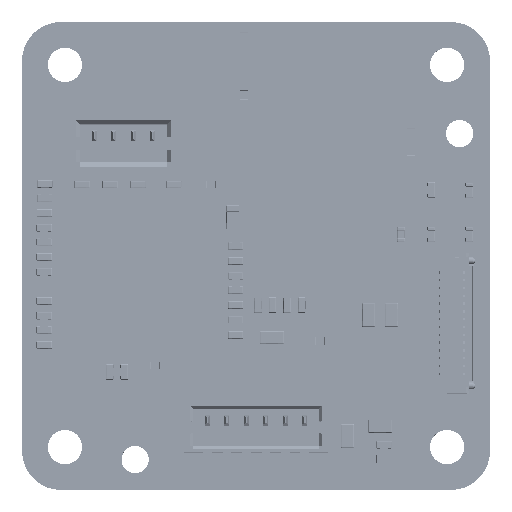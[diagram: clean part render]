
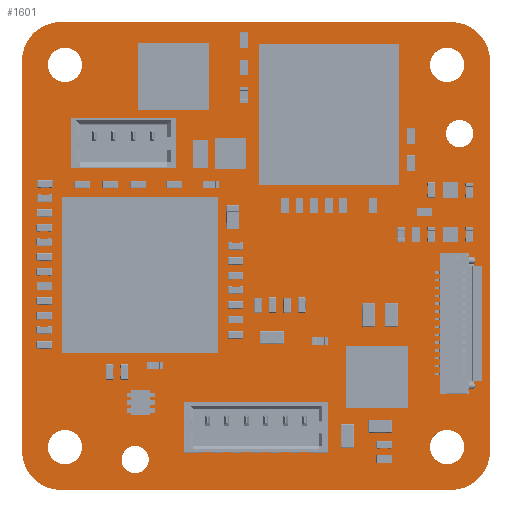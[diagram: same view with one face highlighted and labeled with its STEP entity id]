
A CAD part, top view. The second image highlights one B-rep face of the part: STEP entity #1601.
In plain terms, the highlighted planar face has unit normal (0, 0, 1).
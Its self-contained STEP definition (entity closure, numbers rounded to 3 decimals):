
#760 = VERTEX_POINT('',#761);
#761 = CARTESIAN_POINT('',(0.,2.5,1.002));
#767 = EDGE_CURVE('',#760,#768,#770,.T.);
#768 = VERTEX_POINT('',#769);
#769 = CARTESIAN_POINT('',(-0.006,27.5,1.002));
#770 = LINE('',#771,#772);
#771 = CARTESIAN_POINT('',(0.,2.5,1.002));
#772 = VECTOR('',#773,1.);
#773 = DIRECTION('',(0.,1.,0.));
#798 = EDGE_CURVE('',#768,#799,#801,.T.);
#799 = VERTEX_POINT('',#800);
#800 = CARTESIAN_POINT('',(2.5,30.,1.002));
#801 = CIRCLE('',#802,2.496);
#802 = AXIS2_PLACEMENT_3D('',#803,#804,#805);
#803 = CARTESIAN_POINT('',(2.49,27.504,1.002));
#804 = DIRECTION('',(0.,0.,-1.));
#805 = DIRECTION('',(-1.,-0.002,0.));
#831 = EDGE_CURVE('',#799,#832,#834,.T.);
#832 = VERTEX_POINT('',#833);
#833 = CARTESIAN_POINT('',(27.5,30.,1.002));
#834 = LINE('',#835,#836);
#835 = CARTESIAN_POINT('',(2.5,30.,1.002));
#836 = VECTOR('',#837,1.);
#837 = DIRECTION('',(1.,0.,0.));
#862 = EDGE_CURVE('',#832,#863,#865,.T.);
#863 = VERTEX_POINT('',#864);
#864 = CARTESIAN_POINT('',(30.,27.5,1.002));
#865 = CIRCLE('',#866,2.499);
#866 = AXIS2_PLACEMENT_3D('',#867,#868,#869);
#867 = CARTESIAN_POINT('',(27.501,27.501,1.002));
#868 = DIRECTION('',(0.,0.,-1.));
#869 = DIRECTION('',(0.,1.,0.));
#895 = EDGE_CURVE('',#863,#896,#898,.T.);
#896 = VERTEX_POINT('',#897);
#897 = CARTESIAN_POINT('',(30.,2.5,1.002));
#898 = LINE('',#899,#900);
#899 = CARTESIAN_POINT('',(30.,27.5,1.002));
#900 = VECTOR('',#901,1.);
#901 = DIRECTION('',(0.,-1.,0.));
#926 = EDGE_CURVE('',#896,#927,#929,.T.);
#927 = VERTEX_POINT('',#928);
#928 = CARTESIAN_POINT('',(27.5,0.,1.002));
#929 = CIRCLE('',#930,2.499);
#930 = AXIS2_PLACEMENT_3D('',#931,#932,#933);
#931 = CARTESIAN_POINT('',(27.501,2.499,1.002));
#932 = DIRECTION('',(0.,0.,-1.));
#933 = DIRECTION('',(1.,0.,0.));
#959 = EDGE_CURVE('',#927,#960,#962,.T.);
#960 = VERTEX_POINT('',#961);
#961 = CARTESIAN_POINT('',(2.5,0.,1.002));
#962 = LINE('',#963,#964);
#963 = CARTESIAN_POINT('',(27.5,0.,1.002));
#964 = VECTOR('',#965,1.);
#965 = DIRECTION('',(-1.,0.,0.));
#990 = EDGE_CURVE('',#960,#760,#991,.T.);
#991 = CIRCLE('',#992,2.499);
#992 = AXIS2_PLACEMENT_3D('',#993,#994,#995);
#993 = CARTESIAN_POINT('',(2.499,2.499,1.002));
#994 = DIRECTION('',(0.,0.,-1.));
#995 = DIRECTION('',(0.,-1.,0.));
#1016 = VERTEX_POINT('',#1017);
#1017 = CARTESIAN_POINT('',(3.85,2.75,1.002));
#1023 = EDGE_CURVE('',#1016,#1016,#1024,.T.);
#1024 = CIRCLE('',#1025,1.1);
#1025 = AXIS2_PLACEMENT_3D('',#1026,#1027,#1028);
#1026 = CARTESIAN_POINT('',(2.75,2.75,1.002));
#1027 = DIRECTION('',(0.,0.,1.));
#1028 = DIRECTION('',(1.,0.,0.));
#1049 = VERTEX_POINT('',#1050);
#1050 = CARTESIAN_POINT('',(4.875,22.7,1.002));
#1056 = EDGE_CURVE('',#1049,#1049,#1057,.T.);
#1057 = CIRCLE('',#1058,0.25);
#1058 = AXIS2_PLACEMENT_3D('',#1059,#1060,#1061);
#1059 = CARTESIAN_POINT('',(4.625,22.7,1.002));
#1060 = DIRECTION('',(0.,0.,1.));
#1061 = DIRECTION('',(1.,0.,0.));
#1082 = VERTEX_POINT('',#1083);
#1083 = CARTESIAN_POINT('',(8.125,1.95,1.002));
#1089 = EDGE_CURVE('',#1082,#1082,#1090,.T.);
#1090 = CIRCLE('',#1091,0.875);
#1091 = AXIS2_PLACEMENT_3D('',#1092,#1093,#1094);
#1092 = CARTESIAN_POINT('',(7.25,1.95,1.002));
#1093 = DIRECTION('',(0.,0.,1.));
#1094 = DIRECTION('',(1.,0.,0.));
#1115 = VERTEX_POINT('',#1116);
#1116 = CARTESIAN_POINT('',(12.125,4.45,1.002));
#1122 = EDGE_CURVE('',#1115,#1115,#1123,.T.);
#1123 = CIRCLE('',#1124,0.25);
#1124 = AXIS2_PLACEMENT_3D('',#1125,#1126,#1127);
#1125 = CARTESIAN_POINT('',(11.875,4.45,1.002));
#1126 = DIRECTION('',(0.,0.,1.));
#1127 = DIRECTION('',(1.,0.,0.));
#1148 = VERTEX_POINT('',#1149);
#1149 = CARTESIAN_POINT('',(6.125,22.7,1.002));
#1155 = EDGE_CURVE('',#1148,#1148,#1156,.T.);
#1156 = CIRCLE('',#1157,0.25);
#1157 = AXIS2_PLACEMENT_3D('',#1158,#1159,#1160);
#1158 = CARTESIAN_POINT('',(5.875,22.7,1.002));
#1159 = DIRECTION('',(0.,0.,1.));
#1160 = DIRECTION('',(1.,0.,0.));
#1181 = VERTEX_POINT('',#1182);
#1182 = CARTESIAN_POINT('',(3.85,27.25,1.002));
#1188 = EDGE_CURVE('',#1181,#1181,#1189,.T.);
#1189 = CIRCLE('',#1190,1.1);
#1190 = AXIS2_PLACEMENT_3D('',#1191,#1192,#1193);
#1191 = CARTESIAN_POINT('',(2.75,27.25,1.002));
#1192 = DIRECTION('',(0.,0.,1.));
#1193 = DIRECTION('',(1.,0.,0.));
#1214 = VERTEX_POINT('',#1215);
#1215 = CARTESIAN_POINT('',(8.625,22.7,1.002));
#1221 = EDGE_CURVE('',#1214,#1214,#1222,.T.);
#1222 = CIRCLE('',#1223,0.25);
#1223 = AXIS2_PLACEMENT_3D('',#1224,#1225,#1226);
#1224 = CARTESIAN_POINT('',(8.375,22.7,1.002));
#1225 = DIRECTION('',(0.,0.,1.));
#1226 = DIRECTION('',(1.,0.,0.));
#1247 = VERTEX_POINT('',#1248);
#1248 = CARTESIAN_POINT('',(7.375,22.7,1.002));
#1254 = EDGE_CURVE('',#1247,#1247,#1255,.T.);
#1255 = CIRCLE('',#1256,0.25);
#1256 = AXIS2_PLACEMENT_3D('',#1257,#1258,#1259);
#1257 = CARTESIAN_POINT('',(7.125,22.7,1.002));
#1258 = DIRECTION('',(0.,0.,1.));
#1259 = DIRECTION('',(1.,0.,0.));
#1280 = VERTEX_POINT('',#1281);
#1281 = CARTESIAN_POINT('',(14.625,4.45,1.002));
#1287 = EDGE_CURVE('',#1280,#1280,#1288,.T.);
#1288 = CIRCLE('',#1289,0.25);
#1289 = AXIS2_PLACEMENT_3D('',#1290,#1291,#1292);
#1290 = CARTESIAN_POINT('',(14.375,4.45,1.002));
#1291 = DIRECTION('',(0.,0.,1.));
#1292 = DIRECTION('',(1.,0.,0.));
#1313 = VERTEX_POINT('',#1314);
#1314 = CARTESIAN_POINT('',(13.375,4.45,1.002));
#1320 = EDGE_CURVE('',#1313,#1313,#1321,.T.);
#1321 = CIRCLE('',#1322,0.25);
#1322 = AXIS2_PLACEMENT_3D('',#1323,#1324,#1325);
#1323 = CARTESIAN_POINT('',(13.125,4.45,1.002));
#1324 = DIRECTION('',(0.,0.,1.));
#1325 = DIRECTION('',(1.,0.,0.));
#1346 = VERTEX_POINT('',#1347);
#1347 = CARTESIAN_POINT('',(28.35,2.75,1.002));
#1353 = EDGE_CURVE('',#1346,#1346,#1354,.T.);
#1354 = CIRCLE('',#1355,1.1);
#1355 = AXIS2_PLACEMENT_3D('',#1356,#1357,#1358);
#1356 = CARTESIAN_POINT('',(27.25,2.75,1.002));
#1357 = DIRECTION('',(0.,0.,1.));
#1358 = DIRECTION('',(1.,0.,0.));
#1379 = VERTEX_POINT('',#1380);
#1380 = CARTESIAN_POINT('',(15.875,4.45,1.002));
#1386 = EDGE_CURVE('',#1379,#1379,#1387,.T.);
#1387 = CIRCLE('',#1388,0.25);
#1388 = AXIS2_PLACEMENT_3D('',#1389,#1390,#1391);
#1389 = CARTESIAN_POINT('',(15.625,4.45,1.002));
#1390 = DIRECTION('',(0.,0.,1.));
#1391 = DIRECTION('',(1.,0.,0.));
#1412 = VERTEX_POINT('',#1413);
#1413 = CARTESIAN_POINT('',(18.375,4.45,1.002));
#1419 = EDGE_CURVE('',#1412,#1412,#1420,.T.);
#1420 = CIRCLE('',#1421,0.25);
#1421 = AXIS2_PLACEMENT_3D('',#1422,#1423,#1424);
#1422 = CARTESIAN_POINT('',(18.125,4.45,1.002));
#1423 = DIRECTION('',(0.,0.,1.));
#1424 = DIRECTION('',(1.,0.,0.));
#1445 = VERTEX_POINT('',#1446);
#1446 = CARTESIAN_POINT('',(17.125,4.45,1.002));
#1452 = EDGE_CURVE('',#1445,#1445,#1453,.T.);
#1453 = CIRCLE('',#1454,0.25);
#1454 = AXIS2_PLACEMENT_3D('',#1455,#1456,#1457);
#1455 = CARTESIAN_POINT('',(16.875,4.45,1.002));
#1456 = DIRECTION('',(0.,0.,1.));
#1457 = DIRECTION('',(1.,0.,0.));
#1478 = VERTEX_POINT('',#1479);
#1479 = CARTESIAN_POINT('',(28.925,22.85,1.002));
#1485 = EDGE_CURVE('',#1478,#1478,#1486,.T.);
#1486 = CIRCLE('',#1487,0.875);
#1487 = AXIS2_PLACEMENT_3D('',#1488,#1489,#1490);
#1488 = CARTESIAN_POINT('',(28.05,22.85,1.002));
#1489 = DIRECTION('',(0.,0.,1.));
#1490 = DIRECTION('',(1.,0.,0.));
#1511 = VERTEX_POINT('',#1512);
#1512 = CARTESIAN_POINT('',(28.35,27.25,1.002));
#1518 = EDGE_CURVE('',#1511,#1511,#1519,.T.);
#1519 = CIRCLE('',#1520,1.1);
#1520 = AXIS2_PLACEMENT_3D('',#1521,#1522,#1523);
#1521 = CARTESIAN_POINT('',(27.25,27.25,1.002));
#1522 = DIRECTION('',(0.,0.,1.));
#1523 = DIRECTION('',(1.,0.,0.));
#1601 = ADVANCED_FACE('',(#1602,#1612,#1615,#1618,#1621,#1624,#1627,
    #1630,#1633,#1636,#1639,#1642,#1645,#1648,#1651,#1654,#1657),#1660,
  .T.);
#1602 = FACE_BOUND('',#1603,.F.);
#1603 = EDGE_LOOP('',(#1604,#1605,#1606,#1607,#1608,#1609,#1610,#1611));
#1604 = ORIENTED_EDGE('',*,*,#767,.T.);
#1605 = ORIENTED_EDGE('',*,*,#798,.T.);
#1606 = ORIENTED_EDGE('',*,*,#831,.T.);
#1607 = ORIENTED_EDGE('',*,*,#862,.T.);
#1608 = ORIENTED_EDGE('',*,*,#895,.T.);
#1609 = ORIENTED_EDGE('',*,*,#926,.T.);
#1610 = ORIENTED_EDGE('',*,*,#959,.T.);
#1611 = ORIENTED_EDGE('',*,*,#990,.T.);
#1612 = FACE_BOUND('',#1613,.T.);
#1613 = EDGE_LOOP('',(#1614));
#1614 = ORIENTED_EDGE('',*,*,#1023,.F.);
#1615 = FACE_BOUND('',#1616,.T.);
#1616 = EDGE_LOOP('',(#1617));
#1617 = ORIENTED_EDGE('',*,*,#1056,.F.);
#1618 = FACE_BOUND('',#1619,.T.);
#1619 = EDGE_LOOP('',(#1620));
#1620 = ORIENTED_EDGE('',*,*,#1089,.F.);
#1621 = FACE_BOUND('',#1622,.T.);
#1622 = EDGE_LOOP('',(#1623));
#1623 = ORIENTED_EDGE('',*,*,#1122,.F.);
#1624 = FACE_BOUND('',#1625,.T.);
#1625 = EDGE_LOOP('',(#1626));
#1626 = ORIENTED_EDGE('',*,*,#1155,.F.);
#1627 = FACE_BOUND('',#1628,.T.);
#1628 = EDGE_LOOP('',(#1629));
#1629 = ORIENTED_EDGE('',*,*,#1188,.F.);
#1630 = FACE_BOUND('',#1631,.T.);
#1631 = EDGE_LOOP('',(#1632));
#1632 = ORIENTED_EDGE('',*,*,#1221,.F.);
#1633 = FACE_BOUND('',#1634,.T.);
#1634 = EDGE_LOOP('',(#1635));
#1635 = ORIENTED_EDGE('',*,*,#1254,.F.);
#1636 = FACE_BOUND('',#1637,.T.);
#1637 = EDGE_LOOP('',(#1638));
#1638 = ORIENTED_EDGE('',*,*,#1287,.F.);
#1639 = FACE_BOUND('',#1640,.T.);
#1640 = EDGE_LOOP('',(#1641));
#1641 = ORIENTED_EDGE('',*,*,#1320,.F.);
#1642 = FACE_BOUND('',#1643,.T.);
#1643 = EDGE_LOOP('',(#1644));
#1644 = ORIENTED_EDGE('',*,*,#1353,.F.);
#1645 = FACE_BOUND('',#1646,.T.);
#1646 = EDGE_LOOP('',(#1647));
#1647 = ORIENTED_EDGE('',*,*,#1386,.F.);
#1648 = FACE_BOUND('',#1649,.T.);
#1649 = EDGE_LOOP('',(#1650));
#1650 = ORIENTED_EDGE('',*,*,#1419,.F.);
#1651 = FACE_BOUND('',#1652,.T.);
#1652 = EDGE_LOOP('',(#1653));
#1653 = ORIENTED_EDGE('',*,*,#1452,.F.);
#1654 = FACE_BOUND('',#1655,.T.);
#1655 = EDGE_LOOP('',(#1656));
#1656 = ORIENTED_EDGE('',*,*,#1485,.F.);
#1657 = FACE_BOUND('',#1658,.T.);
#1658 = EDGE_LOOP('',(#1659));
#1659 = ORIENTED_EDGE('',*,*,#1518,.F.);
#1660 = PLANE('',#1661);
#1661 = AXIS2_PLACEMENT_3D('',#1662,#1663,#1664);
#1662 = CARTESIAN_POINT('',(0.,2.5,1.002));
#1663 = DIRECTION('',(0.,0.,1.));
#1664 = DIRECTION('',(1.,0.,0.));
